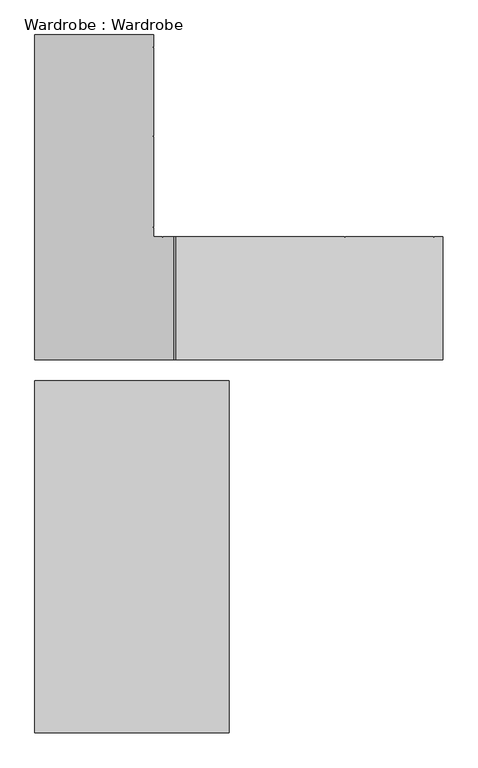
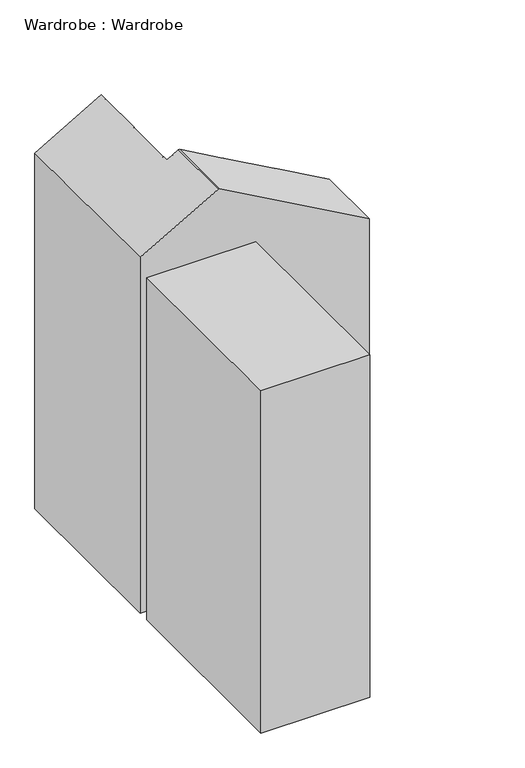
"""IFC4 building model written with IfcOpenShell, lengths in millimetres: furniture geometry, Wardrobe : Wardrobe."""

import ifcopenshell
import ifcopenshell.guid

model = None  # the IFC model being written
_history = None  # IfcOwnerHistory: only IFC2X3 demands one
_inside = {}  # id of a spatial element -> (the spatial element, [elements in it])
_under = {}  # id of a project, library or spatial element -> (it, [spatial elements below it])
_declared = {}  # id of a project -> (the project, [libraries it declares])
_typed = {}  # id of a type object -> (the type object, [elements of that type])
_made_of = {}  # id of a material, layer set ... -> (it, [elements and type objects made of it])


def new_model(schema):
    """Start an empty IFC model of exactly this schema.

    Asked for "IFC4X3", IfcOpenShell would pick the latest addendum, in which some entities
    have other attributes; the version numbers below select the first issue.
    IFC2X3 requires an IfcOwnerHistory on every rooted entity: one is made here for all.
    """
    global model, _history
    if schema == "IFC4X3":
        model = ifcopenshell.file(schema_version=(4, 3, 0, 0))
    else:
        model = ifcopenshell.file(schema=schema)
    _inside.clear()
    _under.clear()
    _declared.clear()
    _typed.clear()
    _made_of.clear()
    _history = None
    if model.schema == "IFC2X3":
        org = make("IfcOrganization", Name="unknown")
        user = make(
            "IfcPersonAndOrganization",
            ThePerson=make("IfcPerson", FamilyName="unknown"),
            TheOrganization=org,
        )
        app = make(
            "IfcApplication",
            ApplicationDeveloper=org,
            Version="unknown",
            ApplicationFullName="unknown",
            ApplicationIdentifier="unknown",
        )
        _history = make(
            "IfcOwnerHistory",
            OwningUser=user,
            OwningApplication=app,
            ChangeAction="ADDED",
            CreationDate=0,
        )
    return model


def make(cls, **values):
    """One entity of the class cls with the attributes given. An attribute that is None is left unset."""
    return model.create_entity(
        cls, **{name: value for name, value in values.items() if value is not None}
    )


def rooted(cls, **values):
    """An entity with a GlobalId (a new one), such as an element, a storey or a relation."""
    return make(cls, GlobalId=ifcopenshell.guid.new(), OwnerHistory=_history, **values)


def si_unit(unit_type, name, prefix=None):
    """IfcSIUnit, for example si_unit("LENGTHUNIT", "METRE", prefix="MILLI")."""
    return make("IfcSIUnit", UnitType=unit_type, Prefix=prefix, Name=name)


def assignment(units):
    """IfcUnitAssignment: the units of a project."""
    return None if units is None else make("IfcUnitAssignment", Units=units)


def point(xyz):
    """IfcCartesianPoint."""
    return None if xyz is None else make("IfcCartesianPoint", Coordinates=xyz)


def direction(xyz):
    """IfcDirection."""
    return None if xyz is None else make("IfcDirection", DirectionRatios=xyz)


def frame(location, z_axis=None, x_axis=None):
    """IfcAxis2Placement3D, a coordinate frame: its origin and axes. An axis left out is left unset."""
    return make(
        "IfcAxis2Placement3D",
        Location=point(location),
        Axis=direction(z_axis),
        RefDirection=direction(x_axis),
    )


def origin():
    """The frame at (0, 0, 0) with its axes left unset."""
    return frame((0.0, 0.0, 0.0))


def place(relative_to, where):
    """IfcLocalPlacement: puts the frame where relative to a parent placement (None: the world)."""
    return make(
        "IfcLocalPlacement", PlacementRelTo=relative_to, RelativePlacement=where
    )


def context(
    kind, dimensions, precision=None, world=None, true_north=None, identifier=None
):
    """IfcGeometricRepresentationContext, for example the 3D "Model" context."""
    return make(
        "IfcGeometricRepresentationContext",
        ContextIdentifier=identifier,
        ContextType=kind,
        CoordinateSpaceDimension=dimensions,
        Precision=precision,
        WorldCoordinateSystem=world,
        TrueNorth=true_north,
    )


def project(units=None, contexts=None):
    """IfcProject with its units and contexts."""
    return rooted(
        "IfcProject",
        Name="project",
        RepresentationContexts=contexts,
        UnitsInContext=assignment(units),
    )


def spatial(cls, under=None, at=None, **own):
    """A site, building, storey or space (cls), placed at a placement, below another one or the project."""
    s = rooted(cls, ObjectPlacement=at, **own)
    if under is not None:
        _under.setdefault(under.id(), (under, []))[1].append(s)
    return s


def faces_of(points, faces, orient=None, outer=None):
    """IfcFace entities. A face is a list of loops; a loop is a list of indices into points, from 0.

    orient and outer hold one flag for each loop. By default every Orientation is true, the
    first loop of a face is its IfcFaceOuterBound and the others are IfcFaceBound.
    """
    made = []
    for i, loops in enumerate(faces):
        bounds = []
        for j, loop in enumerate(loops):
            is_outer = j == 0 if outer is None else outer[i][j]
            bounds.append(
                make(
                    "IfcFaceOuterBound" if is_outer else "IfcFaceBound",
                    Bound=make("IfcPolyLoop", Polygon=[points[k] for k in loop]),
                    Orientation=True if orient is None else orient[i][j],
                )
            )
        made.append(make("IfcFace", Bounds=bounds))
    return made


def faceted_brep(points, faces, orient=None, outer=None, voids=None):
    """IfcFacetedBrep: a solid bounded by flat faces; with voids (closed shells), ...WithVoids."""
    shared = [point(p) for p in points]
    hull = make("IfcClosedShell", CfsFaces=faces_of(shared, faces, orient, outer))
    if voids is None:
        return make("IfcFacetedBrep", Outer=hull)
    return make(
        "IfcFacetedBrepWithVoids",
        Outer=hull,
        Voids=[
            make(cls, CfsFaces=faces_of(shared, fs, o, b)) for cls, fs, o, b in voids
        ],
    )


def shape(context_of_items, identifier, shape_type, items):
    """IfcShapeRepresentation: the items that make up one representation, for example the "Body"."""
    return make(
        "IfcShapeRepresentation",
        ContextOfItems=context_of_items,
        RepresentationIdentifier=identifier,
        RepresentationType=shape_type,
        Items=items,
    )


def source(mapping_origin, context_of_items, identifier, shape_type, items):
    """IfcRepresentationMap: a shape defined once, which mapped items show again and again."""
    return make(
        "IfcRepresentationMap",
        MappingOrigin=mapping_origin,
        MappedRepresentation=shape(context_of_items, identifier, shape_type, items),
    )


def transform(
    local_origin,
    x_axis=None,
    y_axis=None,
    z_axis=None,
    scale=None,
    scale2=None,
    scale3=None,
    uniform=True,
):
    """IfcCartesianTransformationOperator3D, or its non-uniform kind. x_axis, y_axis, z_axis: its Axis1, 2, 3."""
    if uniform:
        return make(
            "IfcCartesianTransformationOperator3D",
            Axis1=direction(x_axis),
            Axis2=direction(y_axis),
            LocalOrigin=point(local_origin),
            Scale=scale,
            Axis3=direction(z_axis),
        )
    return make(
        "IfcCartesianTransformationOperator3DnonUniform",
        Axis1=direction(x_axis),
        Axis2=direction(y_axis),
        LocalOrigin=point(local_origin),
        Scale=scale,
        Axis3=direction(z_axis),
        Scale2=scale2,
        Scale3=scale3,
    )


def mapped(mapping_source, mapping_target):
    """IfcMappedItem: shows the shape of a source again, moved by a transform."""
    return make(
        "IfcMappedItem", MappingSource=mapping_source, MappingTarget=mapping_target
    )


def made_of(thing, what):
    """Note that an element or type object is made of a material, layer set ...; save() writes the relation."""
    if what is not None:
        _made_of.setdefault(what.id(), (what, []))[1].append(thing)
    return thing


def element(
    cls,
    number,
    at=None,
    inside=None,
    cuts=None,
    type_object=None,
    material=None,
    context=None,
    identifier="Body",
    shape_type=None,
    held_by="IfcProductDefinitionShape",
    body=None,
    shapes=None,
    **own,
):
    """One element of the class cls, such as IfcWall. Its Tag is "e" and its number.

    at: its placement. inside: the storey or other place that contains it. cuts: it is an
    opening in that element (IfcRelVoidsElement). A single representation is given by context,
    identifier, shape_type and body (its items); several are given by shapes. held_by: the class
    of the entity that holds the representations. save() writes the other relations.
    """
    e = rooted(cls, Tag="e%d" % number, ObjectPlacement=at, **own)
    if body is not None:
        shapes = [shape(context, identifier, shape_type, body)]
    if shapes is not None:
        e.Representation = make(held_by, Representations=shapes)
    if inside is not None:
        _inside.setdefault(inside.id(), (inside, []))[1].append(e)
    if cuts is not None:
        rooted(
            "IfcRelVoidsElement", RelatingBuildingElement=cuts, RelatedOpeningElement=e
        )
    if type_object is not None:
        _typed.setdefault(type_object.id(), (type_object, []))[1].append(e)
    return made_of(e, material)


def aggregate(whole, parts):
    """IfcRelAggregates: a whole, such as a stair, and the parts it consists of."""
    return rooted("IfcRelAggregates", RelatingObject=whole, RelatedObjects=parts)


def save(model, path):
    """Write the relations noted so far, then the file.

    IfcRelAggregates (storeys below a building ...), IfcRelContainedInSpatialStructure (elements
    in a storey), IfcRelDefinesByType, IfcRelAssociatesMaterial and IfcRelDeclares: one each for
    every whole, place, type object, material and project.
    """
    for whole, parts in _under.values():
        aggregate(whole, parts)
    for where, things in _inside.values():
        rooted(
            "IfcRelContainedInSpatialStructure",
            RelatedElements=things,
            RelatingStructure=where,
        )
    for kind, things in _typed.values():
        rooted("IfcRelDefinesByType", RelatedObjects=things, RelatingType=kind)
    for what, things in _made_of.values():
        rooted("IfcRelAssociatesMaterial", RelatedObjects=things, RelatingMaterial=what)
    for by, libraries in _declared.values():
        rooted("IfcRelDeclares", RelatingContext=by, RelatedDefinitions=libraries)
    model.write(path)


def wardrobe_wardrobe_651819e2(model_context):
    return source(origin(), model_context, "Body", "Brep", [
        faceted_brep([(-123.4392837, 21420.5978406, 11944.9047166), (-123.4392837, 22053.6101024, 11944.9047166), (-135.2152811, 22053.6101024, 11944.9047166), (-135.2152811, 21420.5978406, 11944.9047166), (1252.3010582, 21420.5978406, 8080.0), (-852.6989418, 21420.5978406, 8080.0), (-852.6989418, 23093.6101024, 8080.0), (-241.2892219, 23093.6101024, 8080.0), (-241.2892219, 23033.6101024, 8080.0), (-246.2892219, 23033.6101024, 8080.0), (-246.2892219, 23028.6101024, 8080.0), (-241.2892219, 23028.6101024, 8080.0), (-241.2892219, 22573.6101024, 8080.0), (-246.2892219, 22573.6101024, 8080.0), (-246.2892219, 22568.6101024, 8080.0), (-241.2892219, 22568.6101024, 8080.0), (-241.2892219, 22106.1101024, 8080.0), (-246.2892219, 22106.1101024, 8080.0), (-246.2892219, 22101.1101024, 8080.0), (-241.2892219, 22101.1101024, 8080.0), (-241.2892219, 22053.6101024, 8080.0), (-196.2963848, 22053.6101024, 8080.0), (-196.2963848, 22048.6101024, 8080.0), (-191.2963848, 22048.6101024, 8080.0), (-191.2963848, 22053.6101024, 8080.0), (273.7036152, 22053.6101024, 8080.0), (273.7036152, 22048.6101024, 8080.0), (278.7036152, 22048.6101024, 8080.0), (278.7036152, 22053.6101024, 8080.0), (743.7036152, 22053.6101024, 8080.0), (743.7036152, 22048.6101024, 8080.0), (748.7036152, 22048.6101024, 8080.0), (748.7036152, 22053.6101024, 8080.0), (1203.7036152, 22053.6101024, 8080.0), (1203.7036152, 22048.6101024, 8080.0), (1208.7036152, 22048.6101024, 8080.0), (1208.7036152, 22053.6101024, 8080.0), (1252.3010582, 22053.6101024, 8080.0), (1252.3010582, 22053.6101024, 10739.3615738), (1252.3010582, 22048.6101024, 10739.3615738), (1252.3010582, 22048.6101024, 10748.7921911), (1252.3010582, 22053.6101024, 10748.7921911), (1252.3010582, 22053.6101024, 11171.9500875), (1252.3010582, 21420.5978406, 11171.9500875), (-241.2892219, 22053.6101024, 10739.3615738), (-196.2963848, 22053.6101024, 10739.3615738), (-191.2963848, 22053.6101024, 10739.3615738), (273.7036152, 22053.6101024, 10739.3615738), (278.7036152, 22053.6101024, 10739.3615738), (743.7036152, 22053.6101024, 10739.3615738), (748.7036152, 22053.6101024, 10739.3615738), (1203.7036152, 22053.6101024, 10739.3615738), (1208.7036152, 22053.6101024, 10739.3615738), (1208.7036152, 22053.6101024, 11196.4451498), (1208.7036152, 22053.6101024, 10748.7921911), (748.7036152, 22053.6101024, 11454.8944506), (1203.7036152, 22053.6101024, 11199.2543814), (1203.7036152, 22053.6101024, 10748.7921911), (748.7036152, 22053.6101024, 10748.7921911), (273.7036152, 22053.6101024, 11721.7714459), (273.7036152, 22053.6101024, 10748.7921911), (-191.2963848, 22053.6101024, 10748.7921911), (-191.2963848, 22053.6101024, 11912.7867657), (278.7036152, 22053.6101024, 11718.9622144), (743.7036152, 22053.6101024, 11457.7036821), (743.7036152, 22053.6101024, 10748.7921911), (278.7036152, 22053.6101024, 10748.7921911), (-196.2963848, 22053.6101024, 10748.7921911), (-241.2892219, 22053.6101024, 10748.7921911), (-241.2892219, 22053.6101024, 11884.1555979), (-196.2963848, 22053.6101024, 11909.9232387), (-241.2892219, 23093.6101024, 10739.3615738), (-241.2892219, 23033.6101024, 10739.3615738), (-241.2892219, 23028.6101024, 10739.3615738), (-241.2892219, 22573.6101024, 10739.3615738), (-241.2892219, 22568.6101024, 10739.3615738), (-241.2892219, 22106.1101024, 10739.3615738), (-241.2892219, 22101.1101024, 10739.3615738), (-241.2892219, 22101.1101024, 10748.7921911), (-241.2892219, 22101.1101024, 11884.1555979), (-241.2892219, 22106.1101024, 10748.7921911), (-241.2892219, 22568.6101024, 10748.7921911), (-241.2892219, 22568.6101024, 11884.1555979), (-241.2892219, 22106.1101024, 11884.1555979), (-241.2892219, 22573.6101024, 10748.7921911), (-241.2892219, 23028.6101024, 10748.7921911), (-241.2892219, 23028.6101024, 11884.1555979), (-241.2892219, 22573.6101024, 11884.1555979), (-241.2892219, 23033.6101024, 10748.7921911), (-241.2892219, 23093.6101024, 10748.7921911), (-241.2892219, 23093.6101024, 11884.1555979), (-241.2892219, 23033.6101024, 11884.1555979), (-852.6989418, 23093.6101024, 11533.9979498), (-246.2892219, 23093.6101024, 10748.7921911), (-246.2892219, 23093.6101024, 10739.3615738), (-852.6989418, 21420.5978406, 11533.9979498), (1208.7036152, 22048.6101024, 11196.4451498), (1203.7036152, 22048.6101024, 11199.2543814), (748.7036152, 22048.6101024, 11454.8944506), (743.7036152, 22048.6101024, 11457.7036821), (278.7036152, 22048.6101024, 11718.9622144), (273.7036152, 22048.6101024, 11721.7714459), (1203.7036152, 22048.6101024, 10739.3615738), (1203.7036152, 22048.6101024, 10748.7921911), (748.7036152, 22048.6101024, 10739.3615738), (743.7036152, 22048.6101024, 10739.3615738), (278.7036152, 22048.6101024, 10739.3615738), (273.7036152, 22048.6101024, 10739.3615738), (-191.2963848, 22048.6101024, 10739.3615738), (-196.2963848, 22048.6101024, 10739.3615738), (-246.2892219, 22048.6101024, 10739.3615738), (-246.2892219, 22048.6101024, 10748.7921911), (-196.2963848, 22048.6101024, 10748.7921911), (-196.2963848, 22048.6101024, 11909.9232387), (-191.2963848, 22048.6101024, 11912.7867657), (-191.2963848, 22048.6101024, 10748.7921911), (273.7036152, 22048.6101024, 10748.7921911), (278.7036152, 22048.6101024, 10748.7921911), (743.7036152, 22048.6101024, 10748.7921911), (748.7036152, 22048.6101024, 10748.7921911), (1208.7036152, 22048.6101024, 10748.7921911), (1208.7036152, 22048.6101024, 10739.3615738), (-246.2892219, 22106.1101024, 10739.3615738), (-246.2892219, 22568.6101024, 10739.3615738), (-246.2892219, 22573.6101024, 10739.3615738), (-246.2892219, 23028.6101024, 10739.3615738), (-246.2892219, 23033.6101024, 10739.3615738), (-246.2892219, 23033.6101024, 10748.7921911), (-246.2892219, 23033.6101024, 11881.2920709), (-246.2892219, 23028.6101024, 11881.2920709), (-246.2892219, 23028.6101024, 10748.7921911), (-246.2892219, 22573.6101024, 10748.7921911), (-246.2892219, 22573.6101024, 11881.2920709), (-246.2892219, 22568.6101024, 11881.2920709), (-246.2892219, 22568.6101024, 10748.7921911), (-246.2892219, 22106.1101024, 10748.7921911), (-246.2892219, 22106.1101024, 11881.2920709), (-246.2892219, 22101.1101024, 11881.2920709), (-246.2892219, 22101.1101024, 10748.7921911), (-246.2892219, 22101.1101024, 10739.3615738)], [[[0, 1, 2, 3]], [[4, 5, 6, 7, 8, 9, 10, 11, 12, 13, 14, 15, 16, 17, 18, 19, 20, 21, 22, 23, 24, 25, 26, 27, 28, 29, 30, 31, 32, 33, 34, 35, 36, 37]], [[4, 37, 38, 39, 40, 41, 42, 43]], [[21, 20, 44, 45]], [[25, 24, 46, 47]], [[29, 28, 48, 49]], [[33, 32, 50, 51]], [[37, 36, 52, 38]], [[53, 42, 41, 54]], [[55, 56, 57, 58]], [[1, 59, 60, 61, 62, 2]], [[63, 64, 65, 66]], [[67, 68, 69, 70]], [[8, 7, 71, 72]], [[12, 11, 73, 74]], [[16, 15, 75, 76]], [[20, 19, 77, 44]], [[68, 78, 79, 69]], [[80, 81, 82, 83]], [[84, 85, 86, 87]], [[88, 89, 90, 91]], [[7, 6, 92, 90, 89, 93, 94, 71]], [[6, 5, 95, 92]], [[5, 4, 43, 0, 3, 95]], [[1, 0, 43, 42, 53, 96, 97, 56, 55, 98, 99, 64, 63, 100, 101, 59]], [[34, 33, 51, 102]], [[56, 97, 103, 57]], [[35, 34, 102, 104, 31, 30, 105, 106, 27, 26, 107, 108, 23, 22, 109, 110, 111, 112, 113, 114, 115, 116, 101, 100, 117, 118, 99, 98, 119, 103, 97, 96, 120, 40, 39, 121]], [[36, 35, 121, 52]], [[96, 53, 54, 120]], [[30, 29, 49, 105]], [[64, 99, 118, 65]], [[32, 31, 104, 50]], [[98, 55, 58, 119]], [[26, 25, 47, 107]], [[59, 101, 116, 60]], [[28, 27, 106, 48]], [[100, 63, 66, 117]], [[22, 21, 45, 109]], [[112, 67, 70, 113]], [[24, 23, 108, 46]], [[61, 115, 114, 62]], [[18, 17, 122, 123, 14, 13, 124, 125, 10, 9, 126, 94, 93, 127, 128, 129, 130, 131, 132, 133, 134, 135, 136, 137, 138, 111, 110, 139]], [[19, 18, 139, 77]], [[78, 138, 137, 79]], [[17, 16, 76, 122]], [[135, 80, 83, 136]], [[15, 14, 123, 75]], [[81, 134, 133, 82]], [[13, 12, 74, 124]], [[131, 84, 87, 132]], [[11, 10, 125, 73]], [[85, 130, 129, 86]], [[9, 8, 72, 126]], [[127, 88, 91, 128]], [[106, 105, 49, 48]], [[108, 107, 47, 46]], [[110, 109, 45, 44, 77, 139]], [[104, 102, 51, 50]], [[94, 126, 72, 71]], [[123, 122, 76, 75]], [[125, 124, 74, 73]], [[121, 39, 38, 52]], [[112, 111, 138, 78, 68, 67]], [[116, 115, 61, 60]], [[118, 117, 66, 65]], [[103, 119, 58, 57]], [[127, 93, 89, 88]], [[131, 130, 85, 84]], [[135, 134, 81, 80]], [[40, 120, 54, 41]], [[3, 2, 62, 114, 113, 70, 69, 79, 137, 136, 83, 82, 133, 132, 87, 86, 129, 128, 91, 90, 92, 95]]]),
        faceted_brep([(-852.6989418, 21310.5978406, 11405.0), (-852.6989418, 19496.6307392, 11405.0), (148.6734298, 19496.6307392, 11405.0), (148.6734298, 21310.5978406, 11405.0), (-852.6989418, 21310.5978406, 8080.0), (148.6734298, 21310.5978406, 8080.0), (148.6734298, 21253.2196103, 8080.0), (138.6734298, 21253.2196103, 8080.0), (138.6734298, 21235.9901327, 8080.0), (148.6734298, 21235.9901327, 8080.0), (148.6734298, 20793.2196103, 8080.0), (138.6734298, 20793.2196103, 8080.0), (138.6734298, 20775.9901327, 8080.0), (148.6734298, 20775.9901327, 8080.0), (148.6734298, 20398.2196103, 8080.0), (138.6734298, 20398.2196103, 8080.0), (138.6734298, 20380.9901327, 8080.0), (148.6734298, 20380.9901327, 8080.0), (148.6734298, 19970.7196103, 8080.0), (138.6734298, 19970.7196103, 8080.0), (138.6734298, 19953.4901327, 8080.0), (148.6734298, 19953.4901327, 8080.0), (148.6734298, 19560.4490879, 8080.0), (138.6734298, 19560.4490879, 8080.0), (138.6734298, 19543.2196103, 8080.0), (148.6734298, 19543.2196103, 8080.0), (148.6734298, 19496.6307392, 8080.0), (-852.6989418, 19496.6307392, 8080.0), (148.6734298, 19543.2196103, 11299.1882317), (148.6734298, 19560.4490879, 11299.1882317), (148.6734298, 19953.4901327, 11299.1882317), (148.6734298, 19970.7196103, 11299.1882317), (148.6734298, 20380.9901327, 11299.1882317), (148.6734298, 20398.2196103, 11299.1882317), (148.6734298, 20775.9901327, 11299.1882317), (148.6734298, 20793.2196103, 11299.1882317), (148.6734298, 21235.9901327, 11299.1882317), (148.6734298, 21253.2196103, 11299.1882317), (148.6734298, 19560.4490879, 10729.1370727), (148.6734298, 19953.4901327, 10729.1370727), (148.6734298, 19560.4490879, 11279.1370727), (148.6734298, 19560.4490879, 10749.1882317), (148.6734298, 19953.4901327, 10749.1882317), (148.6734298, 19953.4901327, 11279.1370727), (148.6734298, 21235.9901327, 10729.1370727), (148.6734298, 20793.2196103, 10729.1370727), (148.6734298, 21235.9901327, 10749.1882317), (148.6734298, 21235.9901327, 11279.1370727), (148.6734298, 20793.2196103, 11279.1370727), (148.6734298, 20793.2196103, 10749.1882317), (148.6734298, 20775.9901327, 10729.1370727), (148.6734298, 20398.2196103, 10729.1370727), (148.6734298, 20775.9901327, 10749.1882317), (148.6734298, 20775.9901327, 11279.1370727), (148.6734298, 20398.2196103, 11279.1370727), (148.6734298, 20398.2196103, 10749.1882317), (148.6734298, 20380.9901327, 10729.1370727), (148.6734298, 19970.7196103, 10729.1370727), (148.6734298, 20380.9901327, 10749.1882317), (148.6734298, 20380.9901327, 11279.1370727), (148.6734298, 19970.7196103, 11279.1370727), (148.6734298, 19970.7196103, 10749.1882317), (138.6734298, 19543.2196103, 11299.1882317), (138.6734298, 21253.2196103, 11299.1882317), (138.6734298, 19560.4490879, 11279.1370727), (138.6734298, 19953.4901327, 11279.1370727), (138.6734298, 21235.9901327, 11279.1370727), (138.6734298, 20793.2196103, 11279.1370727), (138.6734298, 20775.9901327, 11279.1370727), (138.6734298, 20398.2196103, 11279.1370727), (138.6734298, 20380.9901327, 11279.1370727), (138.6734298, 19970.7196103, 11279.1370727), (138.6734298, 19560.4490879, 10729.1370727), (138.6734298, 19953.4901327, 10729.1370727), (138.6734298, 19970.7196103, 10729.1370727), (138.6734298, 20380.9901327, 10729.1370727), (138.6734298, 20398.2196103, 10729.1370727), (138.6734298, 20775.9901327, 10729.1370727), (138.6734298, 20793.2196103, 10729.1370727), (138.6734298, 21235.9901327, 10729.1370727), (138.6734298, 19560.4490879, 10749.1882317), (138.6734298, 19953.4901327, 10749.1882317), (138.6734298, 21235.9901327, 10749.1882317), (138.6734298, 20793.2196103, 10749.1882317), (138.6734298, 20775.9901327, 10749.1882317), (138.6734298, 20398.2196103, 10749.1882317), (138.6734298, 20380.9901327, 10749.1882317), (138.6734298, 19970.7196103, 10749.1882317)], [[[0, 1, 2, 3]], [[4, 5, 6, 7, 8, 9, 10, 11, 12, 13, 14, 15, 16, 17, 18, 19, 20, 21, 22, 23, 24, 25, 26, 27]], [[1, 0, 4, 27]], [[2, 1, 27, 26]], [[3, 2, 26, 25, 28, 29, 30, 31, 32, 33, 34, 35, 36, 37, 6, 5]], [[38, 22, 21, 39]], [[40, 41, 42, 43]], [[9, 44, 45, 10]], [[46, 47, 48, 49]], [[13, 50, 51, 14]], [[52, 53, 54, 55]], [[17, 56, 57, 18]], [[58, 59, 60, 61]], [[0, 3, 5, 4]], [[62, 63, 37, 36, 35, 34, 33, 32, 31, 30, 29, 28]], [[64, 40, 43, 65]], [[47, 66, 67, 48]], [[53, 68, 69, 54]], [[59, 70, 71, 60]], [[23, 72, 73, 20, 19, 74, 75, 16, 15, 76, 77, 12, 11, 78, 79, 8, 7, 63, 62, 24], [80, 64, 65, 81], [66, 82, 83, 67], [68, 84, 85, 69], [86, 87, 71, 70]], [[62, 28, 25, 24]], [[37, 63, 7, 6]], [[41, 80, 81, 42]], [[82, 46, 49, 83]], [[84, 52, 55, 85]], [[86, 58, 61, 87]], [[72, 38, 39, 73]], [[44, 79, 78, 45]], [[50, 77, 76, 51]], [[56, 75, 74, 57]], [[64, 80, 41, 40]], [[72, 23, 22, 38]], [[8, 79, 44, 9]], [[82, 66, 47, 46]], [[12, 77, 50, 13]], [[84, 68, 53, 52]], [[78, 11, 10, 45]], [[67, 83, 49, 48]], [[16, 75, 56, 17]], [[86, 70, 59, 58]], [[76, 15, 14, 51]], [[69, 85, 55, 54]], [[81, 65, 43, 42]], [[20, 73, 39, 21]], [[74, 19, 18, 57]], [[71, 87, 61, 60]]]),
    ])


if __name__ == "__main__":
    model = new_model("IFC4")
    model_context = context("Model", 3, world=origin())
    ifc_project = project(units=[si_unit("LENGTHUNIT", "METRE", prefix="MILLI")], contexts=[model_context])
    site = spatial("IfcSite", under=ifc_project)
    building = spatial("IfcBuilding", under=site)
    placement = place(None, origin())
    wardrobe_wardrobe_shape = wardrobe_wardrobe_651819e2(model_context)
    element("IfcFurniture", 1, ObjectType="Wardrobe : Wardrobe", at=placement, inside=building, context=model_context, shape_type="MappedRepresentation", body=[
        mapped(wardrobe_wardrobe_shape, transform((0.0, 0.0, 0.0), x_axis=(1.0, 0.0, 0.0), y_axis=(0.0, 1.0, 0.0), z_axis=(0.0, 0.0, 1.0))),
    ])
    save(model, "model.ifc")
